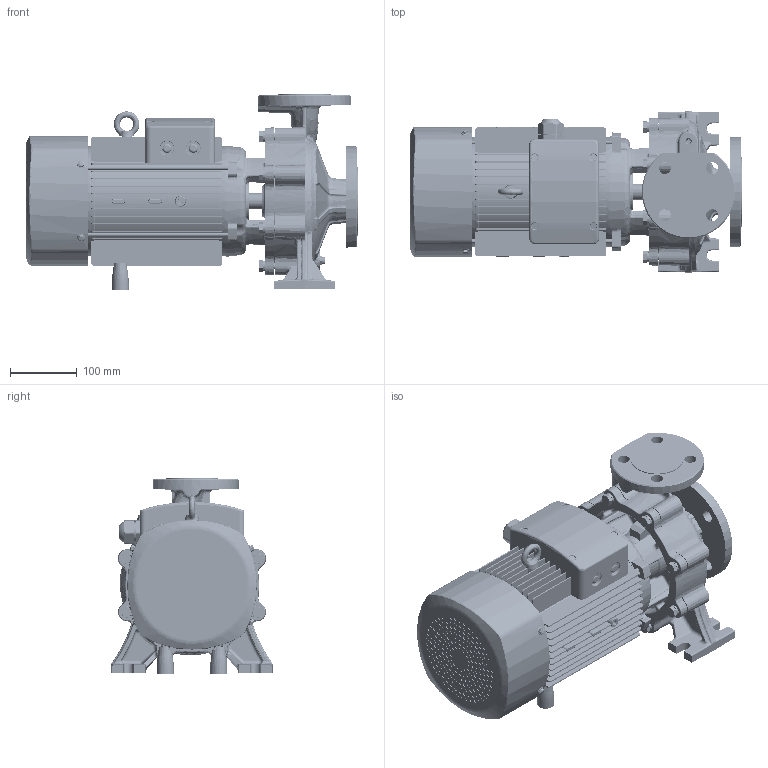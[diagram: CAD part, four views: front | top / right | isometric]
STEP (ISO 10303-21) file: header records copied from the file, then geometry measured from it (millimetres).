
FILE_DESCRIPTION (( 'STEP AP203' ), '1' );
FILE_NAME ('TST32-160-3安装尺寸图.STEP', '2026-04-27T08:59:58', ( '微软用户' ), ( '微软中国' ), 'SwSTEP 2.0', 'SolidWorks 2020', '' );
FILE_SCHEMA (( 'CONFIG_CONTROL_DESIGN' ));
Length unit declared in the file: millimetre
Products named in the file (1): TST32-160-3假蚾喜渡芞
Bounding box: 497.22 x 241.47 x 292.27 mm (x, y, z)
Volume: 12463906 mm3; surface area: 986029.8 mm2
Topology: 5 solids, 15 shells, 4393 faces, 10937 edges, 6733 vertices
Faces by surface type: cylinder 1282, bspline 1157, plane 1149, cone 429, torus 268, sphere 108
Entity records: 205111 total; most frequent: CARTESIAN_POINT 109842, ORIENTED_EDGE 21672, DIRECTION 17695, EDGE_CURVE 10836, AXIS2_PLACEMENT_3D 7322, VERTEX_POINT 6733, EDGE_LOOP 4721, ADVANCED_FACE 4393
